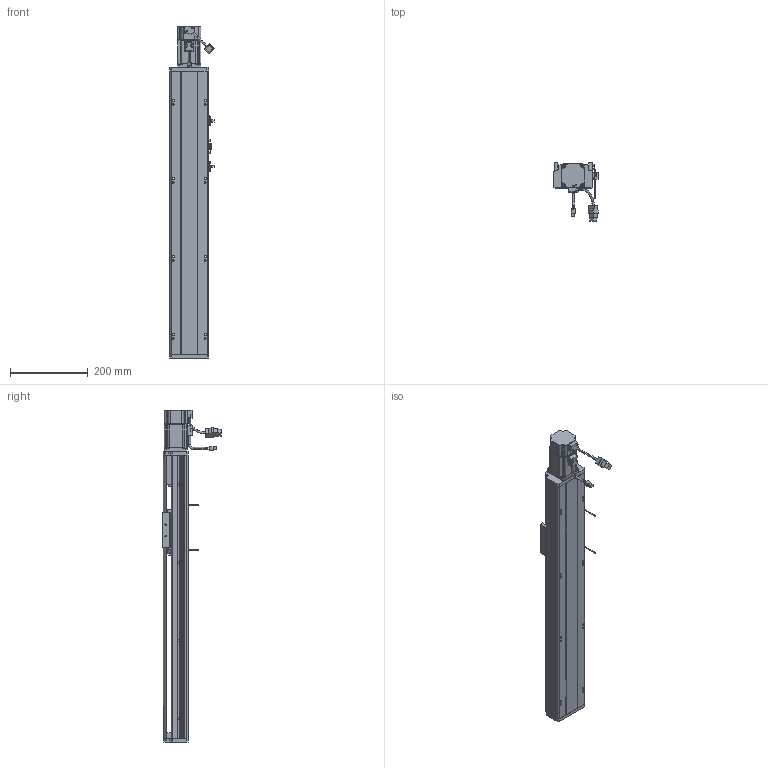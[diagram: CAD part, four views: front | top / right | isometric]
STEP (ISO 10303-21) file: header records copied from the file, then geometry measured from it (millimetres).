
FILE_DESCRIPTION (( 'STEP AP214' ), '1' );
FILE_NAME ('CTH10-500.STEP', '2019-11-18T08:34:18', ( '微软用户' ), ( '微软中国' ), 'SwSTEP 2.0', 'SolidWorks 2017', '' );
FILE_SCHEMA (( 'AUTOMOTIVE_DESIGN' ));
Length unit declared in the file: millimetre
Products named in the file (34): CTH10-500; CTH10-底座_默认<按加工>; CTH10-移动座_默认<按加工>; CTH10-蹟簽蟀諉啣; CTH10-盓傅釱; CTH10-傷啣; CTH10-侜督萇儂啣; SFH1605-288; SFH1605; CTH10-盖板_默认<按加工>; 怢湛200W侜督萇儂ECMA-CX0602ES; CTH10-粣創釱; BEARING_BaseModel20190604090351; 7001-DF; 粣創揤啣; COL12B-粣遠; 坶踡蹟譫; M4-L8囀鞠褒蹟佪; M3-L10囀鞠褒蹟佪; CTH10粣創釱蚾饜极; M5-L20囀鞠褒蹟佪; 遣喳蝶15x12x8; 6000Z粣創; M4-L6半圆头内六角螺丝; EE-SX672; M3-L8囀鞠褒蹟佪; 100耀郪-覜茼んえ; MGN12C; MGN12C-R1; MGN12C-2R420-Z0CHC; 噩砃M3-L10囀鞠褒蹟佪; 噩砃MGN12C; 噩砃MGN12C-R1; 噩砃MGN12C-2R420-Z0CHC
Assembly tree (100 placements, depth 4):
  CTH10-500
    CTH10-底座_默认<按加工>
    CTH10-移动座_默认<按加工>
    CTH10-蹟簽蟀諉啣
    CTH10-盓傅釱
    CTH10-傷啣
    CTH10-侜督萇儂啣
    SFH1605-288
    SFH1605
    CTH10-盖板_默认<按加工>
    怢湛200W侜督萇儂ECMA-CX0602ES
    CTH10粣創釱蚾饜极
      CTH10-粣創釱
      7001-DF
        BEARING_BaseModel20190604090351  x2
      粣創揤啣
      COL12B-粣遠  x2
      坶踡蹟譫
      M4-L8囀鞠褒蹟佪  x4
      M3-L10囀鞠褒蹟佪  x6
    M3-L10囀鞠褒蹟佪  x19
    M5-L20囀鞠褒蹟佪  x4
    遣喳蝶15x12x8  x3
    6000Z粣創
    M4-L6半圆头内六角螺丝  x4
    M4-L8囀鞠褒蹟佪  x8
    EE-SX672  x2
    M3-L8囀鞠褒蹟佪  x4
    100耀郪-覜茼んえ
    MGN12C-2R420-Z0CHC
      MGN12C
      MGN12C-R1  x2
      M3-L10囀鞠褒蹟佪  x8
    噩砃M3-L10囀鞠褒蹟佪
    噩砃MGN12C-2R420-Z0CHC
      噩砃MGN12C
      噩砃MGN12C-R1  x2
      噩砃M3-L10囀鞠褒蹟佪  x8
Bounding box: 114.24 x 151.37 x 852 mm (x, y, z)
Volume: 2278482.9 mm3; surface area: 829396.8 mm2
Topology: 96 solids, 105 shells, 4521 faces, 11362 edges, 7080 vertices
Faces by surface type: plane 2306, cylinder 1328, cone 601, bspline 241, torus 33, sphere 12
Entity records: 93420 total; most frequent: CARTESIAN_POINT 28478, ORIENTED_EDGE 13228, DIRECTION 12619, EDGE_CURVE 6614, AXIS2_PLACEMENT_3D 4466, VERTEX_POINT 4294, VECTOR 3687, LINE 3687
